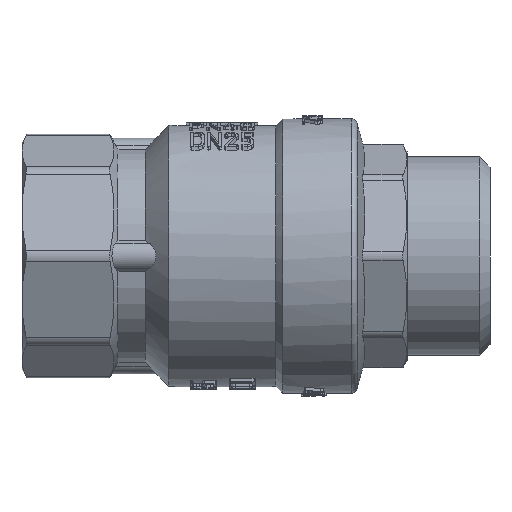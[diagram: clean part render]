
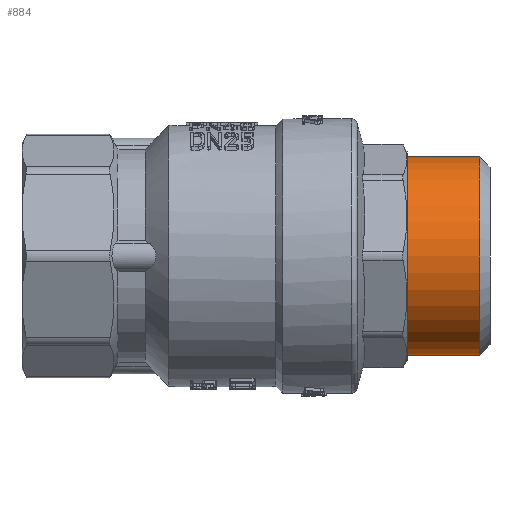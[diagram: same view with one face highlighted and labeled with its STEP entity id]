
A CAD part, front view. The second image highlights one B-rep face of the part: STEP entity #884.
In plain terms, the highlighted cylindrical face has radius 16.625 mm (diameter 33.249 mm), a full revolution.
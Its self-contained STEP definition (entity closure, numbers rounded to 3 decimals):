
#884=ADVANCED_FACE('',(#6584,#6586),#6588,.T.);
#6584=FACE_OUTER_BOUND('',#6585,.T.);
#6585=EDGE_LOOP('',(#12350));
#6586=FACE_OUTER_BOUND('',#6587,.T.);
#6587=EDGE_LOOP('',(#12351));
#6588=CYLINDRICAL_SURFACE('',#6589,16.625);
#6589=AXIS2_PLACEMENT_3D('',#6590,#6591,#6592);
#6590=CARTESIAN_POINT('',(29.85,0.,0.));
#6591=DIRECTION('',(-1.,0.,0.));
#6592=DIRECTION('',(0.,0.,-1.));
#12350=ORIENTED_EDGE('',*,*,#14692,.F.);
#12351=ORIENTED_EDGE('',*,*,#14671,.F.);
#14671=EDGE_CURVE('',#18482,#18482,#18483,.T.);
#14692=EDGE_CURVE('',#18504,#18504,#18505,.F.);
#18482=VERTEX_POINT('',#44571);
#18483=CIRCLE('',#44572,16.625);
#18504=VERTEX_POINT('',#44644);
#18505=CIRCLE('',#44645,16.625);
#44571=CARTESIAN_POINT('',(29.85,0.,-16.625));
#44572=AXIS2_PLACEMENT_3D('',#44573,#44574,#44575);
#44573=CARTESIAN_POINT('',(29.85,0.,0.));
#44574=DIRECTION('',(-1.,0.,0.));
#44575=DIRECTION('',(0.,0.,-1.));
#44644=CARTESIAN_POINT('',(42.05,0.,-16.625));
#44645=AXIS2_PLACEMENT_3D('',#44646,#44647,#44648);
#44646=CARTESIAN_POINT('',(42.05,0.,0.));
#44647=DIRECTION('',(-1.,0.,0.));
#44648=DIRECTION('',(0.,0.,-1.));
